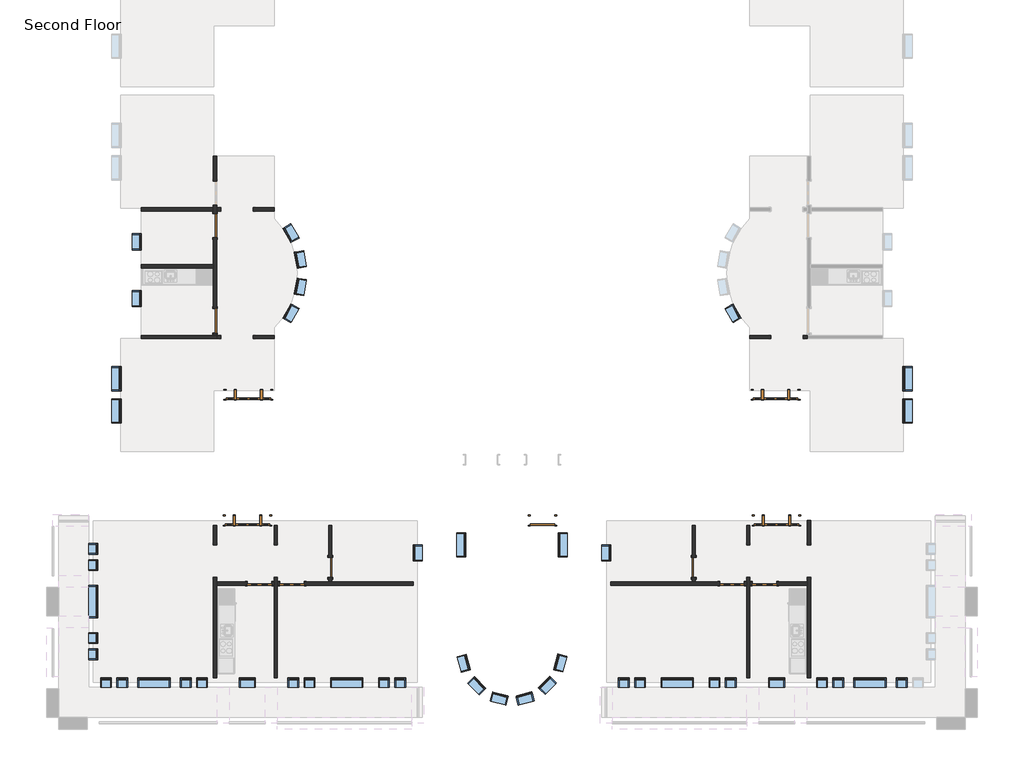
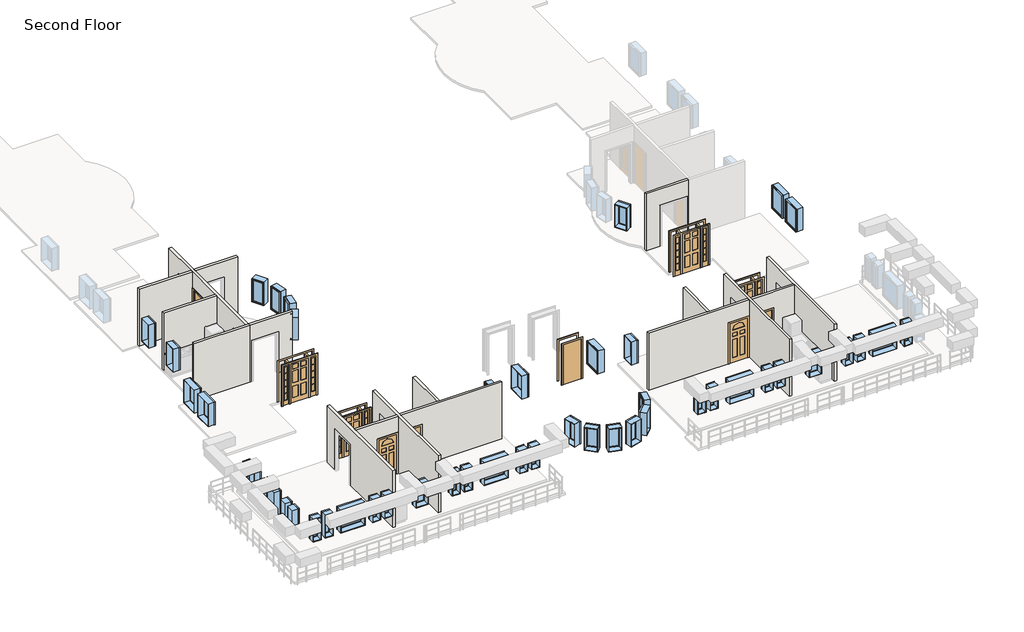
# One storey, part 1 of 5: 47 windows, 17 walls, 13 doors.
"""IFC4 building model written with IfcOpenShell, lengths in millimetres."""

from ifc_helpers import new_model, si_unit, frame, origin, place, context, project, spatial, polyline, outline, extrude, faceted_brep, transform, mapped, element, save
from components import door_829da954, door_2e3b4da2, door_4d6c7550, door_e36758a9, door_a1797ceb, door_a3eb833a, door_cc5399a4, door_dba5aa2e, door_ffdb1193, window_da97879f, window_d61ef850, window_60baf983, window_ed80354a, window_15c49d37, window_0e2fc6ce, window_6eb97611, window_d89bf842

model = new_model("IFC4")

# Units and contexts
model_context = context("Model", 3, world=origin())
ifc_project = project(units=[si_unit("LENGTHUNIT", "METRE", prefix="MILLI")], contexts=[model_context])

# Site, building, storey
site = spatial("IfcSite", under=ifc_project)
building = spatial("IfcBuilding", under=site)
storey = spatial("IfcBuildingStorey", under=building, Name="Second Floor", Elevation=3048.0)

# Doors
placement = place(None, origin())
door_shape = door_829da954(model_context)
element("IfcDoor", 1, ObjectType="Single-Decorative 2 : 36\" x 84\"", at=placement, inside=storey, context=model_context, shape_type="MappedRepresentation", body=[
    mapped(door_shape, transform((-6669.0589563, -30331.8808133, 3048.0), x_axis=(1.0, 0.0, 0.0), y_axis=(0.0, 1.0, 0.0), z_axis=(0.0, 0.0, 1.0))),
])
element("IfcDoor", 2, ObjectType="Single-Decorative 2 : 36\" x 84\"", at=placement, inside=storey, context=model_context, shape_type="MappedRepresentation", body=[
    mapped(door_shape, transform((-24420.4839563, -30331.8808133, 3048.0), x_axis=(1.0, 0.0, 0.0), y_axis=(0.0, 1.0, 0.0), z_axis=(0.0, 0.0, 1.0))),
])
door_2_shape = door_2e3b4da2(model_context)
element("IfcDoor", 3, ObjectType="Single-Decorative 2 : 36\" x 84\"", at=placement, inside=storey, context=model_context, shape_type="MappedRepresentation", body=[
    mapped(door_2_shape, transform((-5449.8589563, -30331.8808133, 3048.0), x_axis=(-1.0, 0.0, 0.0), y_axis=(0.0, -1.0, 0.0), z_axis=(0.0, 0.0, 1.0))),
])
element("IfcDoor", 4, ObjectType="Single-Decorative 2 : 36\" x 84\"", at=placement, inside=storey, context=model_context, shape_type="MappedRepresentation", body=[
    mapped(door_2_shape, transform((-23201.2839563, -30331.8808133, 3048.0), x_axis=(-1.0, 0.0, 0.0), y_axis=(0.0, -1.0, 0.0), z_axis=(0.0, 0.0, 1.0))),
])
door_3_shape = door_4d6c7550(model_context)
element("IfcDoor", 5, ObjectType="Single-Flush : 30\" x 84\"", at=placement, inside=storey, context=model_context, shape_type="MappedRepresentation", body=[
    mapped(door_3_shape, transform((-21764.5964563, -29722.2808133, 3048.0), x_axis=(0.0, -1.0, 0.0), y_axis=(1.0, 0.0, 0.0), z_axis=(0.0, 0.0, 1.0))),
])
door_4_shape = door_e36758a9(model_context)
element("IfcDoor", 6, ObjectType="Single-Flush : 30\" x 84\"", at=placement, inside=storey, context=model_context, shape_type="MappedRepresentation", body=[
    mapped(door_4_shape, transform((-8105.7464563, -29722.2808133, 3048.0), x_axis=(0.0, -1.0, 0.0), y_axis=(1.0, 0.0, 0.0), z_axis=(0.0, 0.0, 1.0))),
])
door_5_shape = door_a1797ceb(model_context)
element("IfcDoor", 7, ObjectType="Single-Flush : 36\" x 84\"", at=placement, inside=storey, context=model_context, shape_type="MappedRepresentation", body=[
    mapped(door_5_shape, transform((-26096.8839563, -20451.2808133, 3048.0), x_axis=(0.0, -1.0, 0.0), y_axis=(1.0, 0.0, 0.0), z_axis=(0.0, 0.0, 1.0))),
])
door_6_shape = door_a3eb833a(model_context)
element("IfcDoor", 8, ObjectType="Single-Flush : 36\" x 84\"", at=placement, inside=storey, context=model_context, shape_type="MappedRepresentation", body=[
    mapped(door_6_shape, transform((-26096.8839563, -16873.0558133, 3048.0), x_axis=(0.0, 1.0, 0.0), y_axis=(-1.0, 0.0, 0.0), z_axis=(0.0, 0.0, 1.0))),
])
door_7_shape = door_cc5399a4(model_context)
element("IfcDoor", 9, ObjectType="Single-Flush : 36\" x 84\"", at=placement, inside=storey, context=model_context, shape_type="MappedRepresentation", body=[
    mapped(door_7_shape, transform((-13792.1714563, -27958.5683133, 3048.0), x_axis=(1.0, 0.0, 0.0), y_axis=(0.0, 1.0, 0.0), z_axis=(0.0, 0.0, 1.0))),
])
door_8_shape = door_dba5aa2e(model_context)
element("IfcDoor", 10, ObjectType="Single-Raised Panel with Sidelights : 36\" x 84\"", at=placement, inside=storey, context=model_context, shape_type="MappedRepresentation", body=[
    mapped(door_8_shape, transform((-24877.6839563, -27958.5683133, 3048.0), x_axis=(1.0, 0.0, 0.0), y_axis=(0.0, 1.0, 0.0), z_axis=(0.0, 0.0, 1.0))),
])
element("IfcDoor", 11, ObjectType="Single-Raised Panel with Sidelights : 36\" x 84\"", at=placement, inside=storey, context=model_context, shape_type="MappedRepresentation", body=[
    mapped(door_8_shape, transform((-24841.1714563, -23234.1683133, 3048.0), x_axis=(1.0, 0.0, 0.0), y_axis=(0.0, 1.0, 0.0), z_axis=(0.0, 0.0, 1.0))),
])
door_9_shape = door_ffdb1193(model_context)
element("IfcDoor", 12, ObjectType="Single-Raised Panel with Sidelights : 36\" x 84\"", at=placement, inside=storey, context=model_context, shape_type="MappedRepresentation", body=[
    mapped(door_9_shape, transform((-4992.6589563, -27958.5683133, 3048.0), x_axis=(-1.0, 0.0, 0.0), y_axis=(0.0, -1.0, 0.0), z_axis=(0.0, 0.0, 1.0))),
])
element("IfcDoor", 13, ObjectType="Single-Raised Panel with Sidelights : 36\" x 84\"", at=placement, inside=storey, context=model_context, shape_type="MappedRepresentation", body=[
    mapped(door_9_shape, transform((-5029.1714563, -23234.1683133, 3048.0), x_axis=(-1.0, 0.0, 0.0), y_axis=(0.0, -1.0, 0.0), z_axis=(0.0, 0.0, 1.0))),
])

# Walls
element("IfcWall", 14, ObjectType="Interior - 5\" Partition (2-hr)", at=placement, inside=storey, context=model_context, shape_type="Brep", body=[
    faceted_brep([(-3709.9589563, -33878.3558133, 3048.0), (-3709.9589563, -30092.1683133, 3048.0), (-3709.9589563, -30092.1683133, 5181.6), (-3709.9589563, -28872.9683133, 5181.6), (-3709.9589563, -28872.9683133, 3048.0), (-3709.9589563, -27958.5683133, 3048.0), (-3709.9589563, -27958.5683133, 6096.0), (-3709.9589563, -33878.3558133, 6096.0), (-3836.9589563, -30092.1683133, 5181.6), (-3836.9589563, -30092.1683133, 3048.0), (-3836.9589563, -30268.3808133, 3048.0), (-3836.9589563, -30395.3808133, 3048.0), (-3836.9589563, -33878.3558133, 3048.0), (-3836.9589563, -33878.3558133, 6096.0), (-3836.9589563, -30395.3808133, 6096.0), (-3836.9589563, -30268.3808133, 6096.0), (-3836.9589563, -27958.5683133, 6096.0), (-3836.9589563, -27958.5683133, 3048.0), (-3836.9589563, -28872.9683133, 3048.0), (-3836.9589563, -28872.9683133, 5181.6)], [[[0, 1, 2, 3, 4, 5, 6, 7]], [[8, 9, 10, 11, 12, 13, 14, 15, 16, 17, 18, 19]], [[12, 11, 10, 9, 1, 0]], [[18, 17, 5, 4]], [[6, 5, 17, 16]], [[7, 6, 16, 15, 14, 13]], [[0, 7, 13, 12]], [[4, 3, 19, 18]], [[2, 1, 9, 8]], [[3, 2, 8, 19]]]),
])
element("IfcWall", 15, ObjectType="Interior - 5\" Partition (2-hr)", at=placement, inside=storey, context=model_context, shape_type="Brep", body=[
    faceted_brep([(-5995.9589563, -28872.9683133, 5181.6), (-5995.9589563, -28872.9683133, 3048.0), (-5995.9589563, -28134.7808133, 3048.0), (-5995.9589563, -28134.7808133, 6096.0), (-5995.9589563, -30268.3808133, 6096.0), (-5995.9589563, -30395.3808133, 6096.0), (-5995.9589563, -33878.3558133, 6096.0), (-5995.9589563, -33878.3558133, 3048.0), (-5995.9589563, -30395.3808133, 3048.0), (-5995.9589563, -30268.3808133, 3048.0), (-5995.9589563, -30092.1683133, 3048.0), (-5995.9589563, -30092.1683133, 5181.6), (-6122.9589563, -28134.7808133, 3048.0), (-6122.9589563, -28872.9683133, 3048.0), (-6122.9589563, -28872.9683133, 5181.6), (-6122.9589563, -30092.1683133, 5181.6), (-6122.9589563, -30092.1683133, 3048.0), (-6122.9589563, -30268.3808133, 3048.0), (-6122.9589563, -30395.3808133, 3048.0), (-6122.9589563, -33878.3558133, 3048.0), (-6122.9589563, -33878.3558133, 6096.0), (-6122.9589563, -30395.3808133, 6096.0), (-6122.9589563, -30268.3808133, 6096.0), (-6122.9589563, -28134.7808133, 6096.0)], [[[0, 1, 2, 3, 4, 5, 6, 7, 8, 9, 10, 11]], [[12, 13, 14, 15, 16, 17, 18, 19, 20, 21, 22, 23]], [[2, 1, 13, 12]], [[10, 9, 8, 7, 19, 18, 17, 16]], [[6, 5, 4, 3, 23, 22, 21, 20]], [[7, 6, 20, 19]], [[3, 2, 12, 23]], [[16, 15, 11, 10]], [[14, 13, 1, 0]], [[15, 14, 0, 11]]]),
])
element("IfcWall", 16, ObjectType="Interior - 5\" Partition (2-hr)", at=placement, inside=storey, context=model_context, shape_type="Brep", body=[
    faceted_brep([(-6211.8589563, -30395.3808133, 5181.6), (-6211.8589563, -30395.3808133, 3048.0), (-6122.9589563, -30395.3808133, 3048.0), (-6122.9589563, -30395.3808133, 6096.0), (-11217.2464563, -30395.3808133, 6096.0), (-11217.2464563, -30395.3808133, 3048.0), (-7126.2589563, -30395.3808133, 3048.0), (-7126.2589563, -30395.3808133, 5181.6), (-6122.9589563, -30268.3808133, 3048.0), (-6211.8589563, -30268.3808133, 3048.0), (-6211.8589563, -30268.3808133, 5181.6), (-7126.2589563, -30268.3808133, 5181.6), (-7126.2589563, -30268.3808133, 3048.0), (-8042.2464563, -30268.3808133, 3048.0), (-8169.2464563, -30268.3808133, 3048.0), (-11217.2464563, -30268.3808133, 3048.0), (-11217.2464563, -30268.3808133, 6096.0), (-8169.2464563, -30268.3808133, 6096.0), (-8042.2464563, -30268.3808133, 6096.0), (-6122.9589563, -30268.3808133, 6096.0)], [[[0, 1, 2, 3, 4, 5, 6, 7]], [[8, 9, 10, 11, 12, 13, 14, 15, 16, 17, 18, 19]], [[2, 1, 9, 8]], [[6, 5, 15, 14, 13, 12]], [[4, 3, 19, 18, 17, 16]], [[3, 2, 8, 19]], [[5, 4, 16, 15]], [[10, 9, 1, 0]], [[11, 10, 0, 7]], [[12, 11, 7, 6]]]),
])
element("IfcWall", 17, ObjectType="Interior - 5\" Partition (2-hr)", at=placement, inside=storey, context=model_context, shape_type="SweptSolid", body=[
    extrude(outline(polyline([(-30103.2808133, 5181.6), (-30103.2808133, 3048.0), (-30268.3808133, 3048.0), (-30268.3808133, 6096.0), (-28134.7808133, 6096.0), (-28134.7808133, 3048.0), (-29341.2808133, 3048.0), (-29341.2808133, 5181.6), (-30103.2808133, 5181.6)])), frame((-8169.2464563, 0.0, 0.0), z_axis=(1.0, 0.0, 0.0), x_axis=(0.0, 1.0, 0.0)), (0.0, 0.0, 1.0), 127.0),
])
element("IfcWall", 18, ObjectType="Interior - 5\" Partition (2-hr)", at=placement, inside=storey, context=model_context, shape_type="SweptSolid", body=[
    extrude(outline(polyline([(3048.0, -5995.9589563), (3048.0, -5907.0589563), (5181.6, -5907.0589563), (5181.6, -4992.6589563), (3048.0, -4992.6589563), (3048.0, -3836.9589563), (6096.0, -3836.9589563), (6096.0, -5995.9589563), (3048.0, -5995.9589563)])), frame((0.0, -30395.3808133, 0.0), z_axis=(0.0, 1.0, 0.0), x_axis=(0.0, 0.0, 1.0)), (0.0, 0.0, 1.0), 127.0),
])
element("IfcWall", 19, ObjectType="Interior - 5\" Partition (2-hr)", at=placement, inside=storey, context=model_context, shape_type="SweptSolid", body=[
    extrude(outline(polyline([(5181.6, -4002.0589563), (3048.0, -4002.0589563), (3048.0, -3836.9589563), (6096.0, -3836.9589563), (6096.0, -5995.9589563), (3048.0, -5995.9589563), (3048.0, -5221.2589563), (5181.6, -5221.2589563), (5181.6, -4002.0589563)])), frame((0.0, -21124.3808133, 0.0), z_axis=(0.0, 1.0, 0.0), x_axis=(0.0, 0.0, 1.0)), (0.0, 0.0, 1.0), 127.0),
])
element("IfcWall", 20, ObjectType="Interior - 5\" Partition (2-hr)", at=placement, inside=storey, context=model_context, shape_type="Brep", body=[
    faceted_brep([(-26033.3839563, -33878.3558133, 3048.0), (-26033.3839563, -30395.3808133, 3048.0), (-26033.3839563, -30268.3808133, 3048.0), (-26033.3839563, -30092.1683133, 3048.0), (-26033.3839563, -30092.1683133, 5181.6), (-26033.3839563, -28872.9683133, 5181.6), (-26033.3839563, -28872.9683133, 3048.0), (-26033.3839563, -28134.7808133, 3048.0), (-26033.3839563, -28134.7808133, 6096.0), (-26033.3839563, -30268.3808133, 6096.0), (-26033.3839563, -30395.3808133, 6096.0), (-26033.3839563, -33878.3558133, 6096.0), (-26160.3839563, -30092.1683133, 5181.6), (-26160.3839563, -30092.1683133, 3048.0), (-26160.3839563, -33878.3558133, 3048.0), (-26160.3839563, -33878.3558133, 6096.0), (-26160.3839563, -28134.7808133, 6096.0), (-26160.3839563, -28134.7808133, 3048.0), (-26160.3839563, -28872.9683133, 3048.0), (-26160.3839563, -28872.9683133, 5181.6)], [[[0, 1, 2, 3, 4, 5, 6, 7, 8, 9, 10, 11]], [[12, 13, 14, 15, 16, 17, 18, 19]], [[14, 13, 3, 2, 1, 0]], [[18, 17, 7, 6]], [[11, 10, 9, 8, 16, 15]], [[0, 11, 15, 14]], [[8, 7, 17, 16]], [[6, 5, 19, 18]], [[4, 3, 13, 12]], [[5, 4, 12, 19]]]),
])
element("IfcWall", 21, ObjectType="Interior - 5\" Partition (2-hr)", at=placement, inside=storey, context=model_context, shape_type="Brep", body=[
    faceted_brep([(-23747.3839563, -28872.9683133, 5181.6), (-23747.3839563, -28872.9683133, 3048.0), (-23747.3839563, -28134.7808133, 3048.0), (-23747.3839563, -28134.7808133, 6096.0), (-23747.3839563, -30268.3808133, 6096.0), (-23747.3839563, -30395.3808133, 6096.0), (-23747.3839563, -33878.3558133, 6096.0), (-23747.3839563, -33878.3558133, 3048.0), (-23747.3839563, -30395.3808133, 3048.0), (-23747.3839563, -30268.3808133, 3048.0), (-23747.3839563, -30092.1683133, 3048.0), (-23747.3839563, -30092.1683133, 5181.6), (-23874.3839563, -28134.7808133, 3048.0), (-23874.3839563, -28872.9683133, 3048.0), (-23874.3839563, -28872.9683133, 5181.6), (-23874.3839563, -30092.1683133, 5181.6), (-23874.3839563, -30092.1683133, 3048.0), (-23874.3839563, -30268.3808133, 3048.0), (-23874.3839563, -30395.3808133, 3048.0), (-23874.3839563, -33878.3558133, 3048.0), (-23874.3839563, -33878.3558133, 6096.0), (-23874.3839563, -30395.3808133, 6096.0), (-23874.3839563, -30268.3808133, 6096.0), (-23874.3839563, -28134.7808133, 6096.0)], [[[0, 1, 2, 3, 4, 5, 6, 7, 8, 9, 10, 11]], [[12, 13, 14, 15, 16, 17, 18, 19, 20, 21, 22, 23]], [[2, 1, 13, 12]], [[10, 9, 8, 7, 19, 18, 17, 16]], [[6, 5, 4, 3, 23, 22, 21, 20]], [[7, 6, 20, 19]], [[3, 2, 12, 23]], [[16, 15, 11, 10]], [[14, 13, 1, 0]], [[15, 14, 0, 11]]]),
])
element("IfcWall", 22, ObjectType="Interior - 5\" Partition (2-hr)", at=placement, inside=storey, context=model_context, shape_type="Brep", body=[
    faceted_brep([(-23658.4839563, -30268.3808133, 5181.6), (-23658.4839563, -30268.3808133, 3048.0), (-23747.3839563, -30268.3808133, 3048.0), (-23747.3839563, -30268.3808133, 6096.0), (-21828.0964563, -30268.3808133, 6096.0), (-21701.0964563, -30268.3808133, 6096.0), (-18653.0964563, -30268.3808133, 6096.0), (-18653.0964563, -30268.3808133, 3048.0), (-21701.0964563, -30268.3808133, 3048.0), (-21828.0964563, -30268.3808133, 3048.0), (-22744.0839563, -30268.3808133, 3048.0), (-22744.0839563, -30268.3808133, 5181.6), (-23747.3839563, -30395.3808133, 3048.0), (-23658.4839563, -30395.3808133, 3048.0), (-23658.4839563, -30395.3808133, 5181.6), (-22744.0839563, -30395.3808133, 5181.6), (-22744.0839563, -30395.3808133, 3048.0), (-18653.0964563, -30395.3808133, 3048.0), (-18653.0964563, -30395.3808133, 6096.0), (-23747.3839563, -30395.3808133, 6096.0)], [[[0, 1, 2, 3, 4, 5, 6, 7, 8, 9, 10, 11]], [[12, 13, 14, 15, 16, 17, 18, 19]], [[2, 1, 13, 12]], [[10, 9, 8, 7, 17, 16]], [[6, 5, 4, 3, 19, 18]], [[3, 2, 12, 19]], [[7, 6, 18, 17]], [[14, 13, 1, 0]], [[15, 14, 0, 11]], [[16, 15, 11, 10]]]),
])
element("IfcWall", 23, ObjectType="Interior - 5\" Partition (2-hr)", at=placement, inside=storey, context=model_context, shape_type="SweptSolid", body=[
    extrude(outline(polyline([(-30103.2808133, 5181.6), (-30103.2808133, 3048.0), (-30268.3808133, 3048.0), (-30268.3808133, 6096.0), (-28134.7808133, 6096.0), (-28134.7808133, 3048.0), (-29341.2808133, 3048.0), (-29341.2808133, 5181.6), (-30103.2808133, 5181.6)])), frame((-21828.0964563, 0.0, 0.0), z_axis=(1.0, 0.0, 0.0), x_axis=(0.0, 1.0, 0.0)), (0.0, 0.0, 1.0), 127.0),
])
element("IfcWall", 24, ObjectType="Interior - 5\" Partition (2-hr)", at=placement, inside=storey, context=model_context, shape_type="SweptSolid", body=[
    extrude(outline(polyline([(5181.6, -23963.2839563), (3048.0, -23963.2839563), (3048.0, -23874.3839563), (6096.0, -23874.3839563), (6096.0, -26033.3839563), (3048.0, -26033.3839563), (3048.0, -24877.6839563), (5181.6, -24877.6839563), (5181.6, -23963.2839563)])), frame((0.0, -30395.3808133, 0.0), z_axis=(0.0, 1.0, 0.0), x_axis=(0.0, 0.0, 1.0)), (0.0, 0.0, 1.0), 127.0),
])
element("IfcWall", 25, ObjectType="Interior - 5\" Partition (2-hr)", at=placement, inside=storey, context=model_context, shape_type="Brep", body=[
    faceted_brep([(-28855.9589563, -21124.3808133, 3048.0), (-26033.3839563, -21124.3808133, 3048.0), (-26033.3839563, -21124.3808133, 6096.0), (-28855.9589563, -21124.3808133, 6096.0), (-28855.9589563, -20997.3808133, 3048.0), (-28855.9589563, -20997.3808133, 6096.0), (-26160.3839563, -20997.3808133, 6096.0), (-26033.3839563, -20997.3808133, 6096.0), (-26033.3839563, -20997.3808133, 3048.0), (-26160.3839563, -20997.3808133, 3048.0)], [[[0, 1, 2, 3]], [[4, 5, 6, 7, 8, 9]], [[1, 0, 4, 9, 8]], [[3, 2, 7, 6, 5]], [[2, 1, 8, 7]], [[0, 3, 5, 4]]]),
])
element("IfcWall", 26, ObjectType="Interior - 5\" Partition (2-hr)", at=placement, inside=storey, context=model_context, shape_type="Brep", body=[
    faceted_brep([(-26160.3839563, -16111.0558133, 5181.6), (-26160.3839563, -16111.0558133, 3048.0), (-26160.3839563, -16199.9558133, 3048.0), (-26160.3839563, -16326.9558133, 3048.0), (-26160.3839563, -16415.8558133, 3048.0), (-26160.3839563, -16415.8558133, 5181.6), (-26160.3839563, -17330.2558133, 5181.6), (-26160.3839563, -17330.2558133, 3048.0), (-26160.3839563, -18333.5558133, 3048.0), (-26160.3839563, -18460.5558133, 3048.0), (-26160.3839563, -19994.0808133, 3048.0), (-26160.3839563, -19994.0808133, 5181.6), (-26160.3839563, -20908.4808133, 5181.6), (-26160.3839563, -20908.4808133, 3048.0), (-26160.3839563, -20997.3808133, 3048.0), (-26160.3839563, -20997.3808133, 6096.0), (-26160.3839563, -18460.5558133, 6096.0), (-26160.3839563, -18333.5558133, 6096.0), (-26160.3839563, -16326.9558133, 6096.0), (-26160.3839563, -16199.9558133, 6096.0), (-26160.3839563, -14266.3808133, 6096.0), (-26160.3839563, -14266.3808133, 3048.0), (-26160.3839563, -15196.6558133, 3048.0), (-26160.3839563, -15196.6558133, 5181.6), (-26033.3839563, -16415.8558133, 3048.0), (-26033.3839563, -16326.9558133, 3048.0), (-26033.3839563, -16199.9558133, 3048.0), (-26033.3839563, -16111.0558133, 3048.0), (-26033.3839563, -16111.0558133, 5181.6), (-26033.3839563, -15196.6558133, 5181.6), (-26033.3839563, -15196.6558133, 3048.0), (-26033.3839563, -14266.3808133, 3048.0), (-26033.3839563, -14266.3808133, 6096.0), (-26033.3839563, -16199.9558133, 6096.0), (-26033.3839563, -16326.9558133, 6096.0), (-26033.3839563, -20997.3808133, 6096.0), (-26033.3839563, -20997.3808133, 3048.0), (-26033.3839563, -20908.4808133, 3048.0), (-26033.3839563, -20908.4808133, 5181.6), (-26033.3839563, -19994.0808133, 5181.6), (-26033.3839563, -19994.0808133, 3048.0), (-26033.3839563, -17330.2558133, 3048.0), (-26033.3839563, -17330.2558133, 5181.6), (-26033.3839563, -16415.8558133, 5181.6)], [[[0, 1, 2, 3, 4, 5, 6, 7, 8, 9, 10, 11, 12, 13, 14, 15, 16, 17, 18, 19, 20, 21, 22, 23]], [[24, 25, 26, 27, 28, 29, 30, 31, 32, 33, 34, 35, 36, 37, 38, 39, 40, 41, 42, 43]], [[14, 13, 37, 36]], [[4, 3, 2, 1, 27, 26, 25, 24]], [[41, 40, 10, 9, 8, 7]], [[22, 21, 31, 30]], [[20, 19, 18, 17, 16, 15, 35, 34, 33, 32]], [[15, 14, 36, 35]], [[21, 20, 32, 31]], [[38, 37, 13, 12]], [[39, 38, 12, 11]], [[40, 39, 11, 10]], [[5, 4, 24, 43]], [[6, 5, 43, 42]], [[7, 6, 42, 41]], [[28, 27, 1, 0]], [[29, 28, 0, 23]], [[30, 29, 23, 22]]]),
])
element("IfcWall", 27, ObjectType="Interior - 5\" Partition (2-hr)", at=placement, inside=storey, context=model_context, shape_type="SweptSolid", body=[
    extrude(outline(polyline([(-26160.3839563, -16326.9558133), (-28855.9589563, -16326.9558133), (-28855.9589563, -16199.9558133), (-26160.3839563, -16199.9558133), (-26160.3839563, -16326.9558133)])), frame((0.0, 0.0, 3048.0), z_axis=(0.0, 0.0, 1.0), x_axis=(1.0, 0.0, 0.0)), (0.0, 0.0, 1.0), 3048.0),
])
element("IfcWall", 28, ObjectType="Interior - 5\" Partition (2-hr)", at=placement, inside=storey, context=model_context, shape_type="SweptSolid", body=[
    extrude(outline(polyline([(-28855.9589563, -18333.5558133), (-26160.3839563, -18333.5558133), (-26160.3839563, -18460.5558133), (-28855.9589563, -18460.5558133), (-28855.9589563, -18333.5558133)])), frame((0.0, 0.0, 3048.0), z_axis=(0.0, 0.0, 1.0), x_axis=(1.0, 0.0, 0.0)), (0.0, 0.0, 1.0), 3048.0),
])
element("IfcWall", 29, ObjectType="Interior - 5\" Partition (2-hr)", at=placement, inside=storey, context=model_context, shape_type="SweptSolid", body=[
    extrude(outline(polyline([(5181.6, -24649.0839563), (3048.0, -24649.0839563), (3048.0, -23874.3839563), (6096.0, -23874.3839563), (6096.0, -26033.3839563), (3048.0, -26033.3839563), (3048.0, -25868.2839563), (5181.6, -25868.2839563), (5181.6, -24649.0839563)])), frame((0.0, -16326.9558133, 0.0), z_axis=(0.0, 1.0, 0.0), x_axis=(0.0, 0.0, 1.0)), (0.0, 0.0, 1.0), 127.0),
])
element("IfcWall", 30, ObjectType="Interior - 5\" Partition (2-hr)", at=placement, inside=storey, context=model_context, shape_type="SweptSolid", body=[
    extrude(outline(polyline([(3048.0, -26033.3839563), (3048.0, -25868.2839563), (5181.6, -25868.2839563), (5181.6, -24649.0839563), (3048.0, -24649.0839563), (3048.0, -23874.3839563), (6096.0, -23874.3839563), (6096.0, -26033.3839563), (3048.0, -26033.3839563)])), frame((0.0, -21124.3808133, 0.0), z_axis=(0.0, 1.0, 0.0), x_axis=(0.0, 0.0, 1.0)), (0.0, 0.0, 1.0), 127.0),
])

# Windows
window_shape = window_da97879f(model_context)
element("IfcWindow", 31, ObjectType="Fixed : 16\" x 48\"", at=placement, inside=storey, context=model_context, shape_type="MappedRepresentation", body=[
    mapped(window_shape, transform((-6681.7589563, -34054.5683133, 3048.0), x_axis=(1.0, 0.0, 0.0), y_axis=(0.0, 1.0, 0.0), z_axis=(0.0, 0.0, 1.0))),
])
element("IfcWindow", 32, ObjectType="Fixed : 16\" x 48\"", at=placement, inside=storey, context=model_context, shape_type="MappedRepresentation", body=[
    mapped(window_shape, transform((-7291.3589563, -34054.5683133, 3048.0), x_axis=(1.0, 0.0, 0.0), y_axis=(0.0, 1.0, 0.0), z_axis=(0.0, 0.0, 1.0))),
])
element("IfcWindow", 33, ObjectType="Fixed : 16\" x 48\"", at=placement, inside=storey, context=model_context, shape_type="MappedRepresentation", body=[
    mapped(window_shape, transform((-255.5589563, -34054.5683133, 3048.0), x_axis=(1.0, 0.0, 0.0), y_axis=(0.0, 1.0, 0.0), z_axis=(0.0, 0.0, 1.0))),
])
element("IfcWindow", 34, ObjectType="Fixed : 16\" x 48\"", at=placement, inside=storey, context=model_context, shape_type="MappedRepresentation", body=[
    mapped(window_shape, transform((-19099.1839563, -34054.5683133, 3048.0), x_axis=(1.0, 0.0, 0.0), y_axis=(0.0, 1.0, 0.0), z_axis=(0.0, 0.0, 1.0))),
])
element("IfcWindow", 35, ObjectType="Fixed : 16\" x 48\"", at=placement, inside=storey, context=model_context, shape_type="MappedRepresentation", body=[
    mapped(window_shape, transform((-19708.7839563, -34054.5683133, 3048.0), x_axis=(1.0, 0.0, 0.0), y_axis=(0.0, 1.0, 0.0), z_axis=(0.0, 0.0, 1.0))),
])
element("IfcWindow", 36, ObjectType="Fixed : 16\" x 48\"", at=placement, inside=storey, context=model_context, shape_type="MappedRepresentation", body=[
    mapped(window_shape, transform((-26541.3839563, -34054.5683133, 3048.0), x_axis=(1.0, 0.0, 0.0), y_axis=(0.0, 1.0, 0.0), z_axis=(0.0, 0.0, 1.0))),
])
element("IfcWindow", 37, ObjectType="Fixed : 16\" x 48\"", at=placement, inside=storey, context=model_context, shape_type="MappedRepresentation", body=[
    mapped(window_shape, transform((-27150.9839563, -34054.5683133, 3048.0), x_axis=(1.0, 0.0, 0.0), y_axis=(0.0, 1.0, 0.0), z_axis=(0.0, 0.0, 1.0))),
])
element("IfcWindow", 38, ObjectType="Fixed : 16\" x 48\"", at=placement, inside=storey, context=model_context, shape_type="MappedRepresentation", body=[
    mapped(window_shape, transform((-30668.8839563, -33025.8683133, 3048.0), x_axis=(0.0, -1.0, 0.0), y_axis=(1.0, 0.0, 0.0), z_axis=(0.0, 0.0, 1.0))),
])
element("IfcWindow", 39, ObjectType="Fixed : 16\" x 48\"", at=placement, inside=storey, context=model_context, shape_type="MappedRepresentation", body=[
    mapped(window_shape, transform((-30668.8839563, -32416.2683133, 3048.0), x_axis=(0.0, -1.0, 0.0), y_axis=(1.0, 0.0, 0.0), z_axis=(0.0, 0.0, 1.0))),
])
window_2_shape = window_d61ef850(model_context)
element("IfcWindow", 40, ObjectType="Fixed : 16\" x 48\"", at=placement, inside=storey, context=model_context, shape_type="MappedRepresentation", body=[
    mapped(window_2_shape, transform((-10771.1589563, -34054.5683133, 3048.0), x_axis=(-1.0, 0.0, 0.0), y_axis=(0.0, -1.0, 0.0), z_axis=(0.0, 0.0, 1.0))),
])
element("IfcWindow", 41, ObjectType="Fixed : 16\" x 48\"", at=placement, inside=storey, context=model_context, shape_type="MappedRepresentation", body=[
    mapped(window_2_shape, transform((-10161.5589563, -34054.5683133, 3048.0), x_axis=(-1.0, 0.0, 0.0), y_axis=(0.0, -1.0, 0.0), z_axis=(0.0, 0.0, 1.0))),
])
element("IfcWindow", 42, ObjectType="Fixed : 16\" x 48\"", at=placement, inside=storey, context=model_context, shape_type="MappedRepresentation", body=[
    mapped(window_2_shape, transform((-3328.9589563, -34054.5683133, 3048.0), x_axis=(-1.0, 0.0, 0.0), y_axis=(0.0, -1.0, 0.0), z_axis=(0.0, 0.0, 1.0))),
])
element("IfcWindow", 43, ObjectType="Fixed : 16\" x 48\"", at=placement, inside=storey, context=model_context, shape_type="MappedRepresentation", body=[
    mapped(window_2_shape, transform((-2719.3589563, -34054.5683133, 3048.0), x_axis=(-1.0, 0.0, 0.0), y_axis=(0.0, -1.0, 0.0), z_axis=(0.0, 0.0, 1.0))),
])
element("IfcWindow", 44, ObjectType="Fixed : 16\" x 48\"", at=placement, inside=storey, context=model_context, shape_type="MappedRepresentation", body=[
    mapped(window_2_shape, transform((-23188.5839563, -34054.5683133, 3048.0), x_axis=(-1.0, 0.0, 0.0), y_axis=(0.0, -1.0, 0.0), z_axis=(0.0, 0.0, 1.0))),
])
element("IfcWindow", 45, ObjectType="Fixed : 16\" x 48\"", at=placement, inside=storey, context=model_context, shape_type="MappedRepresentation", body=[
    mapped(window_2_shape, transform((-22578.9839563, -34054.5683133, 3048.0), x_axis=(-1.0, 0.0, 0.0), y_axis=(0.0, -1.0, 0.0), z_axis=(0.0, 0.0, 1.0))),
])
element("IfcWindow", 46, ObjectType="Fixed : 16\" x 48\"", at=placement, inside=storey, context=model_context, shape_type="MappedRepresentation", body=[
    mapped(window_2_shape, transform((-30224.3839563, -34054.5683133, 3048.0), x_axis=(-1.0, 0.0, 0.0), y_axis=(0.0, -1.0, 0.0), z_axis=(0.0, 0.0, 1.0))),
])
element("IfcWindow", 47, ObjectType="Fixed : 16\" x 48\"", at=placement, inside=storey, context=model_context, shape_type="MappedRepresentation", body=[
    mapped(window_2_shape, transform((-29614.7839563, -34054.5683133, 3048.0), x_axis=(-1.0, 0.0, 0.0), y_axis=(0.0, -1.0, 0.0), z_axis=(0.0, 0.0, 1.0))),
])
element("IfcWindow", 48, ObjectType="Fixed : 16\" x 48\"", at=placement, inside=storey, context=model_context, shape_type="MappedRepresentation", body=[
    mapped(window_2_shape, transform((-30668.8839563, -28987.2683133, 3048.0), x_axis=(0.0, 1.0, 0.0), y_axis=(-1.0, 0.0, 0.0), z_axis=(0.0, 0.0, 1.0))),
])
element("IfcWindow", 49, ObjectType="Fixed : 16\" x 48\"", at=placement, inside=storey, context=model_context, shape_type="MappedRepresentation", body=[
    mapped(window_2_shape, transform((-30668.8839563, -29596.8683133, 3048.0), x_axis=(0.0, 1.0, 0.0), y_axis=(-1.0, 0.0, 0.0), z_axis=(0.0, 0.0, 1.0))),
])
window_3_shape = window_60baf983(model_context)
element("IfcWindow", 50, ObjectType="Fixed : 24\" x 48\"", at=placement, inside=storey, context=model_context, shape_type="MappedRepresentation", body=[
    mapped(window_3_shape, transform((-24839.5839563, -34054.5683133, 3048.0), x_axis=(1.0, 0.0, 0.0), y_axis=(0.0, 1.0, 0.0), z_axis=(0.0, 0.0, 1.0))),
])
element("IfcWindow", 51, ObjectType="Fixed : 24\" x 48\"", at=placement, inside=storey, context=model_context, shape_type="MappedRepresentation", body=[
    mapped(window_3_shape, transform((-18476.8839563, -29139.6683133, 3048.0), x_axis=(0.0, 1.0, 0.0), y_axis=(-1.0, 0.0, 0.0), z_axis=(0.0, 0.0, 1.0))),
])
element("IfcWindow", 52, ObjectType="Fixed : 24\" x 48\"", at=placement, inside=storey, context=model_context, shape_type="MappedRepresentation", body=[
    mapped(window_3_shape, transform((-23222.1961911, -20134.3150929, 3048.0), x_axis=(0.49619108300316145, 0.8682133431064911, 0.0), y_axis=(-0.8682133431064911, 0.49619108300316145, 0.0), z_axis=(0.0, 0.0, 1.0))),
])
element("IfcWindow", 53, ObjectType="Fixed : 24\" x 48\"", at=placement, inside=storey, context=model_context, shape_type="MappedRepresentation", body=[
    mapped(window_3_shape, transform((-22878.8677992, -19139.5143296, 3048.0), x_axis=(0.16973229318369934, 0.9854902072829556, 0.0), y_axis=(-0.9854902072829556, 0.16973229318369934, 0.0), z_axis=(0.0, 0.0, 1.0))),
])
window_4_shape = window_ed80354a(model_context)
element("IfcWindow", 54, ObjectType="Fixed : 24\" x 48\"", at=placement, inside=storey, context=model_context, shape_type="MappedRepresentation", body=[
    mapped(window_4_shape, transform((-5030.7589563, -34054.5683133, 3048.0), x_axis=(-1.0, 0.0, 0.0), y_axis=(0.0, -1.0, 0.0), z_axis=(0.0, 0.0, 1.0))),
])
element("IfcWindow", 55, ObjectType="Fixed : 24\" x 48\"", at=placement, inside=storey, context=model_context, shape_type="MappedRepresentation", body=[
    mapped(window_4_shape, transform((-11393.4589563, -29139.6683133, 3048.0), x_axis=(0.0, 1.0, 0.0), y_axis=(-1.0, 0.0, 0.0), z_axis=(0.0, 0.0, 1.0))),
])
element("IfcWindow", 56, ObjectType="Fixed : 24\" x 48\"", at=placement, inside=storey, context=model_context, shape_type="MappedRepresentation", body=[
    mapped(window_4_shape, transform((-16757.5848795, -33290.1635131, 3048.0), x_axis=(-0.2617614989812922, 0.9651325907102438, 0.0), y_axis=(-0.9651325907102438, -0.2617614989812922, 0.0), z_axis=(0.0, 0.0, 1.0))),
])
element("IfcWindow", 57, ObjectType="Fixed : 24\" x 48\"", at=placement, inside=storey, context=model_context, shape_type="MappedRepresentation", body=[
    mapped(window_4_shape, transform((-16286.0301771, -34140.4392215, 3048.0), x_axis=(-0.7092584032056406, 0.7049485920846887, 0.0), y_axis=(-0.7049485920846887, -0.7092584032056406, 0.0), z_axis=(0.0, 0.0, 1.0))),
])
element("IfcWindow", 58, ObjectType="Fixed : 24\" x 48\"", at=placement, inside=storey, context=model_context, shape_type="MappedRepresentation", body=[
    mapped(window_4_shape, transform((-15452.5139714, -34641.0222339, 3048.0), x_axis=(-0.9667100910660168, 0.25587418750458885, 0.0), y_axis=(-0.25587418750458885, -0.9667100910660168, 0.0), z_axis=(0.0, 0.0, 1.0))),
])
element("IfcWindow", 59, ObjectType="Fixed : 24\" x 48\"", at=placement, inside=storey, context=model_context, shape_type="MappedRepresentation", body=[
    mapped(window_4_shape, transform((-14480.3762565, -34657.7817365, 3048.0), x_axis=(-0.9651325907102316, -0.26176149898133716, 0.0), y_axis=(0.26176149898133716, -0.9651325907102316, 0.0), z_axis=(0.0, 0.0, 1.0))),
])
element("IfcWindow", 60, ObjectType="Fixed : 24\" x 48\"", at=placement, inside=storey, context=model_context, shape_type="MappedRepresentation", body=[
    mapped(window_4_shape, transform((-13630.1005482, -34186.2270341, 3048.0), x_axis=(-0.7049485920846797, -0.7092584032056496, 0.0), y_axis=(0.7092584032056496, -0.7049485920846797, 0.0), z_axis=(0.0, 0.0, 1.0))),
])
element("IfcWindow", 61, ObjectType="Fixed : 24\" x 48\"", at=placement, inside=storey, context=model_context, shape_type="MappedRepresentation", body=[
    mapped(window_4_shape, transform((-13129.5175357, -33352.7108284, 3048.0), x_axis=(-0.2558741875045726, -0.9667100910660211, 0.0), y_axis=(0.9667100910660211, -0.2558741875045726, 0.0), z_axis=(0.0, 0.0, 1.0))),
])
element("IfcWindow", 62, ObjectType="Fixed : 24\" x 48\"", at=placement, inside=storey, context=model_context, shape_type="MappedRepresentation", body=[
    mapped(window_4_shape, transform((-6646.5999888, -20133.4311225, 3048.0), x_axis=(-0.4961910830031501, 0.8682133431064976, 0.0), y_axis=(-0.8682133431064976, -0.4961910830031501, 0.0), z_axis=(0.0, 0.0, 1.0))),
])
element("IfcWindow", 63, ObjectType="Fixed : 24\" x 48\"", at=placement, inside=storey, context=model_context, shape_type="MappedRepresentation", body=[
    mapped(window_4_shape, transform((-29032.1714563, -19578.1558133, 3048.0), x_axis=(0.0, 1.0, 0.0), y_axis=(-1.0, 0.0, 0.0), z_axis=(0.0, 0.0, 1.0))),
])
element("IfcWindow", 64, ObjectType="Fixed : 24\" x 48\"", at=placement, inside=storey, context=model_context, shape_type="MappedRepresentation", body=[
    mapped(window_4_shape, transform((-29032.1714563, -17444.5558133, 3048.0), x_axis=(0.0, 1.0, 0.0), y_axis=(-1.0, 0.0, 0.0), z_axis=(0.0, 0.0, 1.0))),
])
element("IfcWindow", 65, ObjectType="Fixed : 24\" x 48\"", at=placement, inside=storey, context=model_context, shape_type="MappedRepresentation", body=[
    mapped(window_4_shape, transform((-23222.1961911, -17190.0215337, 3048.0), x_axis=(0.4961910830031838, -0.8682133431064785, 0.0), y_axis=(0.8682133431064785, 0.4961910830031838, 0.0), z_axis=(0.0, 0.0, 1.0))),
])
element("IfcWindow", 66, ObjectType="Fixed : 24\" x 48\"", at=placement, inside=storey, context=model_context, shape_type="MappedRepresentation", body=[
    mapped(window_4_shape, transform((-22878.8677992, -18184.822297, 3048.0), x_axis=(0.16973229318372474, -0.9854902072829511, 0.0), y_axis=(0.9854902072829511, 0.16973229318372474, 0.0), z_axis=(0.0, 0.0, 1.0))),
])
window_5_shape = window_15c49d37(model_context)
element("IfcWindow", 67, ObjectType="Fixed : 36\" x 48\"", at=placement, inside=storey, context=model_context, shape_type="MappedRepresentation", body=[
    mapped(window_5_shape, transform((-76.1714563, -23805.6683133, 3048.0), x_axis=(0.0, 1.0, 0.0), y_axis=(-1.0, 0.0, 0.0), z_axis=(0.0, 0.0, 1.0))),
])
element("IfcWindow", 68, ObjectType="Fixed : 36\" x 48\"", at=placement, inside=storey, context=model_context, shape_type="MappedRepresentation", body=[
    mapped(window_5_shape, transform((-76.1714563, -22586.4683133, 3048.0), x_axis=(0.0, 1.0, 0.0), y_axis=(-1.0, 0.0, 0.0), z_axis=(0.0, 0.0, 1.0))),
])
window_6_shape = window_0e2fc6ce(model_context)
element("IfcWindow", 69, ObjectType="Fixed : 36\" x 48\"", at=placement, inside=storey, context=model_context, shape_type="MappedRepresentation", body=[
    mapped(window_6_shape, transform((-16840.1714563, -28834.8683133, 3048.0), x_axis=(0.0, 1.0, 0.0), y_axis=(-1.0, 0.0, 0.0), z_axis=(0.0, 0.0, 1.0))),
])
element("IfcWindow", 70, ObjectType="Fixed : 36\" x 48\"", at=placement, inside=storey, context=model_context, shape_type="MappedRepresentation", body=[
    mapped(window_6_shape, transform((-13030.1714563, -28911.0683133, 3048.0), x_axis=(0.0, -1.0, 0.0), y_axis=(1.0, 0.0, 0.0), z_axis=(0.0, 0.0, 1.0))),
])
element("IfcWindow", 71, ObjectType="Fixed : 36\" x 48\"", at=placement, inside=storey, context=model_context, shape_type="MappedRepresentation", body=[
    mapped(window_6_shape, transform((-29794.1714563, -23805.6683133, 3048.0), x_axis=(0.0, 1.0, 0.0), y_axis=(-1.0, 0.0, 0.0), z_axis=(0.0, 0.0, 1.0))),
])
element("IfcWindow", 72, ObjectType="Fixed : 36\" x 48\"", at=placement, inside=storey, context=model_context, shape_type="MappedRepresentation", body=[
    mapped(window_6_shape, transform((-29794.1714563, -22586.4683133, 3048.0), x_axis=(0.0, 1.0, 0.0), y_axis=(-1.0, 0.0, 0.0), z_axis=(0.0, 0.0, 1.0))),
])
window_7_shape = window_6eb97611(model_context)
element("IfcWindow", 73, ObjectType="Fixed : 48\" x 48\"", at=placement, inside=storey, context=model_context, shape_type="MappedRepresentation", body=[
    mapped(window_7_shape, transform((-21105.7839563, -34054.5683133, 3048.0), x_axis=(1.0, 0.0, 0.0), y_axis=(0.0, 1.0, 0.0), z_axis=(0.0, 0.0, 1.0))),
])
element("IfcWindow", 74, ObjectType="Fixed : 48\" x 48\"", at=placement, inside=storey, context=model_context, shape_type="MappedRepresentation", body=[
    mapped(window_7_shape, transform((-28344.7839563, -34054.5683133, 3048.0), x_axis=(1.0, 0.0, 0.0), y_axis=(0.0, 1.0, 0.0), z_axis=(0.0, 0.0, 1.0))),
])
element("IfcWindow", 75, ObjectType="Fixed : 48\" x 48\"", at=placement, inside=storey, context=model_context, shape_type="MappedRepresentation", body=[
    mapped(window_7_shape, transform((-30668.8839563, -31044.6683133, 3048.0), x_axis=(0.0, -1.0, 0.0), y_axis=(1.0, 0.0, 0.0), z_axis=(0.0, 0.0, 1.0))),
])
window_8_shape = window_d89bf842(model_context)
element("IfcWindow", 76, ObjectType="Fixed : 48\" x 48\"", at=placement, inside=storey, context=model_context, shape_type="MappedRepresentation", body=[
    mapped(window_8_shape, transform((-8764.5589563, -34054.5683133, 3048.0), x_axis=(-1.0, 0.0, 0.0), y_axis=(0.0, -1.0, 0.0), z_axis=(0.0, 0.0, 1.0))),
])
element("IfcWindow", 77, ObjectType="Fixed : 48\" x 48\"", at=placement, inside=storey, context=model_context, shape_type="MappedRepresentation", body=[
    mapped(window_8_shape, transform((-1525.5589563, -34054.5683133, 3048.0), x_axis=(-1.0, 0.0, 0.0), y_axis=(0.0, -1.0, 0.0), z_axis=(0.0, 0.0, 1.0))),
])

save(model, "model.ifc")
